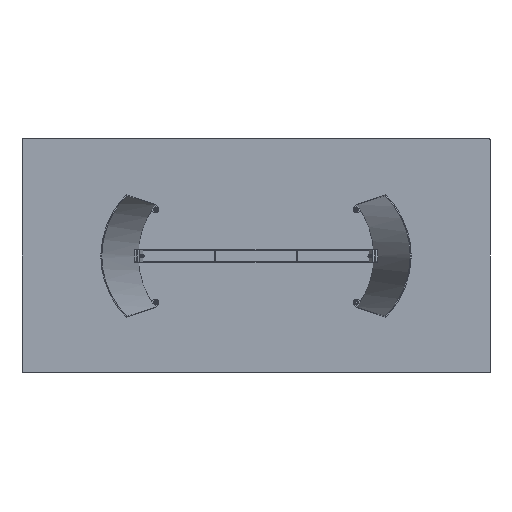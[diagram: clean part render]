
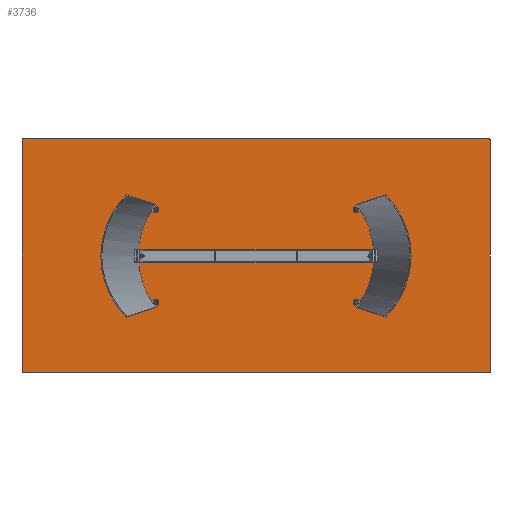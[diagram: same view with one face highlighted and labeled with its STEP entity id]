
A CAD part, front view. The second image highlights one B-rep face of the part: STEP entity #3736.
In plain terms, the highlighted planar face has unit normal (0, -1, 0).
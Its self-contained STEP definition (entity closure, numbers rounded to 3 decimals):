
#237 = DIRECTION ( 'NONE',  ( 0., 0., 1. ) ) ;
#814 = EDGE_CURVE ( 'NONE', #816, #2797, #6562, .T. ) ;
#816 = VERTEX_POINT ( 'NONE', #8921 ) ;
#854 = CIRCLE ( 'NONE', #7309, 5. ) ;
#1030 = VERTEX_POINT ( 'NONE', #9948 ) ;
#1167 = VECTOR ( 'NONE', #7918, 1000. ) ;
#1495 = EDGE_CURVE ( 'NONE', #5447, #2797, #4563, .T. ) ;
#1675 = DIRECTION ( 'NONE',  ( 0., 1., 0. ) ) ;
#1797 = DIRECTION ( 'NONE',  ( 0., -1., 0. ) ) ;
#2242 = EDGE_LOOP ( 'NONE', ( #8884, #4948, #9045, #8168, #7738, #5978, #4415, #4677 ) ) ;
#2244 = PLANE ( 'NONE',  #6785 ) ;
#2349 = LINE ( 'NONE', #7776, #3984 ) ;
#2488 = AXIS2_PLACEMENT_3D ( 'NONE', #8502, #9437, #7119 ) ;
#2622 = CARTESIAN_POINT ( 'NONE',  ( -1200., 0., -600. ) ) ;
#2742 = CARTESIAN_POINT ( 'NONE',  ( 1200., 0., -595. ) ) ;
#2797 = VERTEX_POINT ( 'NONE', #2742 ) ;
#2850 = LINE ( 'NONE', #9932, #1167 ) ;
#2908 = CARTESIAN_POINT ( 'NONE',  ( 1195., 0., 600. ) ) ;
#3277 = CARTESIAN_POINT ( 'NONE',  ( -1195., 0., -595. ) ) ;
#3488 = CARTESIAN_POINT ( 'NONE',  ( -1200., 0., 595. ) ) ;
#3557 = EDGE_CURVE ( 'NONE', #8715, #8393, #6626, .T. ) ;
#3680 = EDGE_CURVE ( 'NONE', #4388, #8393, #2349, .T. ) ;
#3736 = ADVANCED_FACE ( 'NONE', ( #6959 ), #2244, .F. ) ;
#3984 = VECTOR ( 'NONE', #5527, 1000. ) ;
#4126 = CARTESIAN_POINT ( 'NONE',  ( 1195., 0., 595. ) ) ;
#4147 = DIRECTION ( 'NONE',  ( 0., 0., 1. ) ) ;
#4388 = VERTEX_POINT ( 'NONE', #8106 ) ;
#4415 = ORIENTED_EDGE ( 'NONE', *, *, #7910, .F. ) ;
#4563 = CIRCLE ( 'NONE', #7675, 5. ) ;
#4677 = ORIENTED_EDGE ( 'NONE', *, *, #1495, .T. ) ;
#4948 = ORIENTED_EDGE ( 'NONE', *, *, #9290, .T. ) ;
#5181 = VECTOR ( 'NONE', #7375, 1000. ) ;
#5304 = EDGE_CURVE ( 'NONE', #4388, #1030, #5997, .T. ) ;
#5447 = VERTEX_POINT ( 'NONE', #9044 ) ;
#5527 = DIRECTION ( 'NONE',  ( 0., 0., 1. ) ) ;
#5737 = CARTESIAN_POINT ( 'NONE',  ( 1200., 0., -600. ) ) ;
#5789 = DIRECTION ( 'NONE',  ( -1., 0., 0. ) ) ;
#5960 = CARTESIAN_POINT ( 'NONE',  ( -1195., 0., 600. ) ) ;
#5978 = ORIENTED_EDGE ( 'NONE', *, *, #5304, .T. ) ;
#5997 = CIRCLE ( 'NONE', #7321, 5. ) ;
#6052 = CARTESIAN_POINT ( 'NONE',  ( 1195., 0., -595. ) ) ;
#6562 = LINE ( 'NONE', #5737, #5181 ) ;
#6575 = LINE ( 'NONE', #2622, #7770 ) ;
#6626 = CIRCLE ( 'NONE', #2488, 5. ) ;
#6785 = AXIS2_PLACEMENT_3D ( 'NONE', #10110, #1675, #9597 ) ;
#6959 = FACE_OUTER_BOUND ( 'NONE', #2242, .T. ) ;
#7119 = DIRECTION ( 'NONE',  ( 0., 0., 1. ) ) ;
#7309 = AXIS2_PLACEMENT_3D ( 'NONE', #4126, #7323, #237 ) ;
#7321 = AXIS2_PLACEMENT_3D ( 'NONE', #3277, #1797, #4147 ) ;
#7323 = DIRECTION ( 'NONE',  ( 0., -1., 0. ) ) ;
#7375 = DIRECTION ( 'NONE',  ( 0., 0., -1. ) ) ;
#7675 = AXIS2_PLACEMENT_3D ( 'NONE', #6052, #8409, #8316 ) ;
#7738 = ORIENTED_EDGE ( 'NONE', *, *, #3680, .F. ) ;
#7770 = VECTOR ( 'NONE', #5789, 1000. ) ;
#7776 = CARTESIAN_POINT ( 'NONE',  ( -1200., 0., -600. ) ) ;
#7910 = EDGE_CURVE ( 'NONE', #5447, #1030, #6575, .T. ) ;
#7918 = DIRECTION ( 'NONE',  ( 1., 0., 0. ) ) ;
#8106 = CARTESIAN_POINT ( 'NONE',  ( -1200., 0., -595. ) ) ;
#8168 = ORIENTED_EDGE ( 'NONE', *, *, #3557, .T. ) ;
#8316 = DIRECTION ( 'NONE',  ( 0., 0., 1. ) ) ;
#8393 = VERTEX_POINT ( 'NONE', #3488 ) ;
#8409 = DIRECTION ( 'NONE',  ( 0., -1., 0. ) ) ;
#8502 = CARTESIAN_POINT ( 'NONE',  ( -1195., 0., 595. ) ) ;
#8661 = VERTEX_POINT ( 'NONE', #2908 ) ;
#8715 = VERTEX_POINT ( 'NONE', #5960 ) ;
#8747 = EDGE_CURVE ( 'NONE', #8715, #8661, #2850, .T. ) ;
#8884 = ORIENTED_EDGE ( 'NONE', *, *, #814, .F. ) ;
#8921 = CARTESIAN_POINT ( 'NONE',  ( 1200., 0., 595. ) ) ;
#9044 = CARTESIAN_POINT ( 'NONE',  ( 1195., 0., -600. ) ) ;
#9045 = ORIENTED_EDGE ( 'NONE', *, *, #8747, .F. ) ;
#9290 = EDGE_CURVE ( 'NONE', #816, #8661, #854, .T. ) ;
#9437 = DIRECTION ( 'NONE',  ( 0., -1., 0. ) ) ;
#9597 = DIRECTION ( 'NONE',  ( 0., 0., 1. ) ) ;
#9932 = CARTESIAN_POINT ( 'NONE',  ( -1200., 0., 600. ) ) ;
#9948 = CARTESIAN_POINT ( 'NONE',  ( -1195., 0., -600. ) ) ;
#10110 = CARTESIAN_POINT ( 'NONE',  ( 0., 0., 0. ) ) ;
